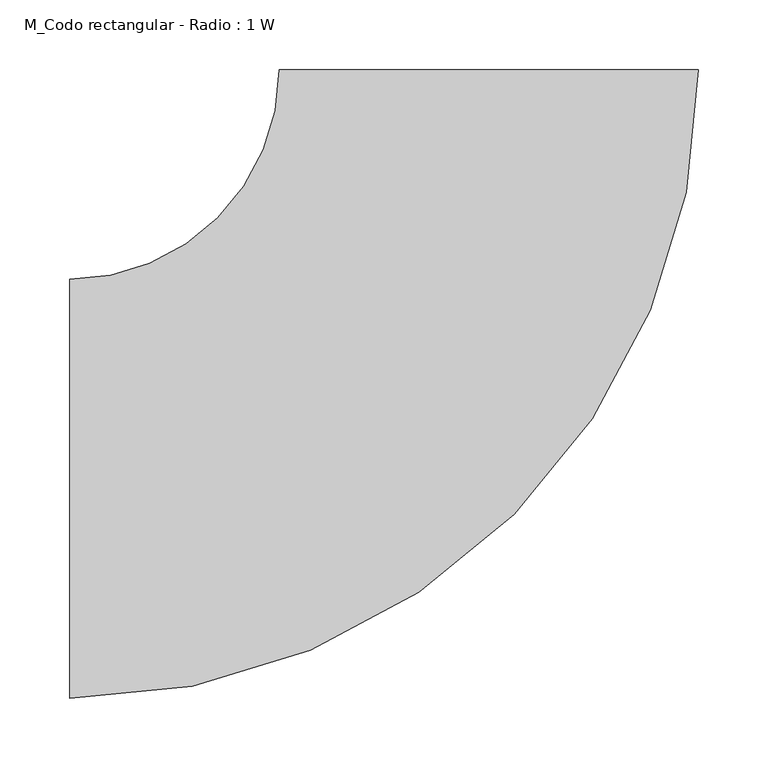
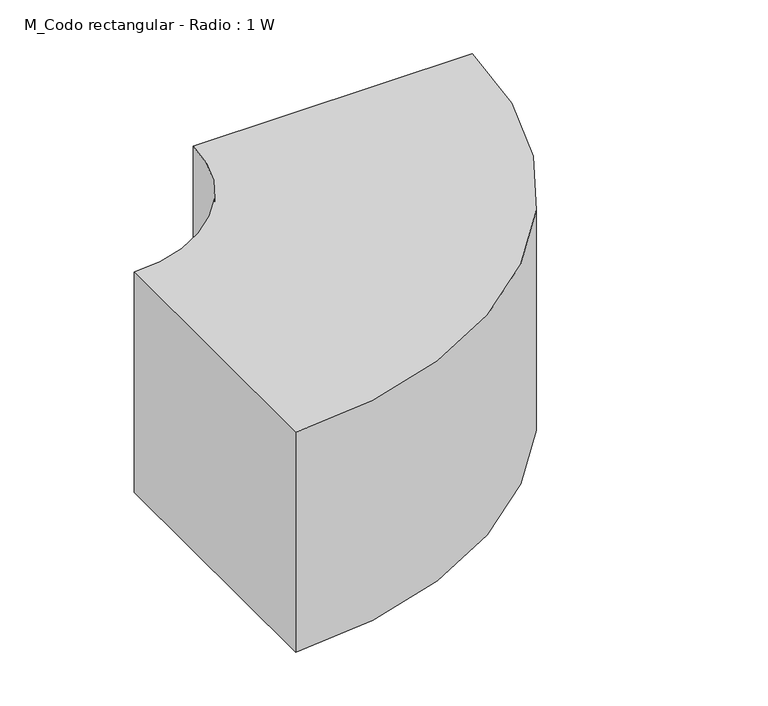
"""IFC4 building model written with IfcOpenShell, lengths in millimetres: duct fitting geometry, M_Codo rectangular - Radio : 1 W."""

import ifcopenshell
import ifcopenshell.guid

model = None  # the IFC model being written
_history = None  # IfcOwnerHistory: only IFC2X3 demands one
_inside = {}  # id of a spatial element -> (the spatial element, [elements in it])
_under = {}  # id of a project, library or spatial element -> (it, [spatial elements below it])
_declared = {}  # id of a project -> (the project, [libraries it declares])
_typed = {}  # id of a type object -> (the type object, [elements of that type])
_made_of = {}  # id of a material, layer set ... -> (it, [elements and type objects made of it])


def new_model(schema):
    """Start an empty IFC model of exactly this schema.

    Asked for "IFC4X3", IfcOpenShell would pick the latest addendum, in which some entities
    have other attributes; the version numbers below select the first issue.
    IFC2X3 requires an IfcOwnerHistory on every rooted entity: one is made here for all.
    """
    global model, _history
    if schema == "IFC4X3":
        model = ifcopenshell.file(schema_version=(4, 3, 0, 0))
    else:
        model = ifcopenshell.file(schema=schema)
    _inside.clear()
    _under.clear()
    _declared.clear()
    _typed.clear()
    _made_of.clear()
    _history = None
    if model.schema == "IFC2X3":
        org = make("IfcOrganization", Name="unknown")
        user = make(
            "IfcPersonAndOrganization",
            ThePerson=make("IfcPerson", FamilyName="unknown"),
            TheOrganization=org,
        )
        app = make(
            "IfcApplication",
            ApplicationDeveloper=org,
            Version="unknown",
            ApplicationFullName="unknown",
            ApplicationIdentifier="unknown",
        )
        _history = make(
            "IfcOwnerHistory",
            OwningUser=user,
            OwningApplication=app,
            ChangeAction="ADDED",
            CreationDate=0,
        )
    return model


def make(cls, **values):
    """One entity of the class cls with the attributes given. An attribute that is None is left unset."""
    return model.create_entity(
        cls, **{name: value for name, value in values.items() if value is not None}
    )


def rooted(cls, **values):
    """An entity with a GlobalId (a new one), such as an element, a storey or a relation."""
    return make(cls, GlobalId=ifcopenshell.guid.new(), OwnerHistory=_history, **values)


def si_unit(unit_type, name, prefix=None):
    """IfcSIUnit, for example si_unit("LENGTHUNIT", "METRE", prefix="MILLI")."""
    return make("IfcSIUnit", UnitType=unit_type, Prefix=prefix, Name=name)


def assignment(units):
    """IfcUnitAssignment: the units of a project."""
    return None if units is None else make("IfcUnitAssignment", Units=units)


def point(xyz):
    """IfcCartesianPoint."""
    return None if xyz is None else make("IfcCartesianPoint", Coordinates=xyz)


def direction(xyz):
    """IfcDirection."""
    return None if xyz is None else make("IfcDirection", DirectionRatios=xyz)


def frame(location, z_axis=None, x_axis=None):
    """IfcAxis2Placement3D, a coordinate frame: its origin and axes. An axis left out is left unset."""
    return make(
        "IfcAxis2Placement3D",
        Location=point(location),
        Axis=direction(z_axis),
        RefDirection=direction(x_axis),
    )


def frame_2d(location, x_axis=None):
    """IfcAxis2Placement2D, a coordinate frame in the plane: its origin and x axis."""
    return make(
        "IfcAxis2Placement2D", Location=point(location), RefDirection=direction(x_axis)
    )


def origin():
    """The frame at (0, 0, 0) with its axes left unset."""
    return frame((0.0, 0.0, 0.0))


def place(relative_to, where):
    """IfcLocalPlacement: puts the frame where relative to a parent placement (None: the world)."""
    return make(
        "IfcLocalPlacement", PlacementRelTo=relative_to, RelativePlacement=where
    )


def context(
    kind, dimensions, precision=None, world=None, true_north=None, identifier=None
):
    """IfcGeometricRepresentationContext, for example the 3D "Model" context."""
    return make(
        "IfcGeometricRepresentationContext",
        ContextIdentifier=identifier,
        ContextType=kind,
        CoordinateSpaceDimension=dimensions,
        Precision=precision,
        WorldCoordinateSystem=world,
        TrueNorth=true_north,
    )


def project(units=None, contexts=None):
    """IfcProject with its units and contexts."""
    return rooted(
        "IfcProject",
        Name="project",
        RepresentationContexts=contexts,
        UnitsInContext=assignment(units),
    )


def spatial(cls, under=None, at=None, **own):
    """A site, building, storey or space (cls), placed at a placement, below another one or the project."""
    s = rooted(cls, ObjectPlacement=at, **own)
    if under is not None:
        _under.setdefault(under.id(), (under, []))[1].append(s)
    return s


def polyline(points):
    """IfcPolyline through the points."""
    return make("IfcPolyline", Points=[point(p) for p in points])


def circle_curve(where, radius):
    """IfcCircle in the frame where."""
    return make("IfcCircle", Position=where, Radius=radius)


def trimmed(basis, trim1, trim2, sense, master):
    """IfcTrimmedCurve: the piece of a basis curve between two trims."""
    return make(
        "IfcTrimmedCurve",
        BasisCurve=basis,
        Trim1=trim1,
        Trim2=trim2,
        SenseAgreement=sense,
        MasterRepresentation=master,
    )


def segment(curve, same_sense, transition):
    """IfcCompositeCurveSegment."""
    return make(
        "IfcCompositeCurveSegment",
        Transition=transition,
        SameSense=same_sense,
        ParentCurve=curve,
    )


def composite_curve(segments, self_intersect=None):
    """IfcCompositeCurve: segments joined end to end."""
    return make("IfcCompositeCurve", Segments=segments, SelfIntersect=self_intersect)


def outline(outer, holes=None, kind="AREA"):
    """IfcArbitraryClosedProfileDef: a profile drawn as a closed curve; with holes, ...WithVoids."""
    if holes is None:
        return make("IfcArbitraryClosedProfileDef", ProfileType=kind, OuterCurve=outer)
    return make(
        "IfcArbitraryProfileDefWithVoids",
        ProfileType=kind,
        OuterCurve=outer,
        InnerCurves=holes,
    )


def extrude(swept, where, along, depth):
    """IfcExtrudedAreaSolid: the profile swept, set in the frame where, extruded along a direction by depth."""
    return make(
        "IfcExtrudedAreaSolid",
        SweptArea=swept,
        Position=where,
        ExtrudedDirection=direction(along),
        Depth=depth,
    )


def shape(context_of_items, identifier, shape_type, items):
    """IfcShapeRepresentation: the items that make up one representation, for example the "Body"."""
    return make(
        "IfcShapeRepresentation",
        ContextOfItems=context_of_items,
        RepresentationIdentifier=identifier,
        RepresentationType=shape_type,
        Items=items,
    )


def source(mapping_origin, context_of_items, identifier, shape_type, items):
    """IfcRepresentationMap: a shape defined once, which mapped items show again and again."""
    return make(
        "IfcRepresentationMap",
        MappingOrigin=mapping_origin,
        MappedRepresentation=shape(context_of_items, identifier, shape_type, items),
    )


def transform(
    local_origin,
    x_axis=None,
    y_axis=None,
    z_axis=None,
    scale=None,
    scale2=None,
    scale3=None,
    uniform=True,
):
    """IfcCartesianTransformationOperator3D, or its non-uniform kind. x_axis, y_axis, z_axis: its Axis1, 2, 3."""
    if uniform:
        return make(
            "IfcCartesianTransformationOperator3D",
            Axis1=direction(x_axis),
            Axis2=direction(y_axis),
            LocalOrigin=point(local_origin),
            Scale=scale,
            Axis3=direction(z_axis),
        )
    return make(
        "IfcCartesianTransformationOperator3DnonUniform",
        Axis1=direction(x_axis),
        Axis2=direction(y_axis),
        LocalOrigin=point(local_origin),
        Scale=scale,
        Axis3=direction(z_axis),
        Scale2=scale2,
        Scale3=scale3,
    )


def mapped(mapping_source, mapping_target):
    """IfcMappedItem: shows the shape of a source again, moved by a transform."""
    return make(
        "IfcMappedItem", MappingSource=mapping_source, MappingTarget=mapping_target
    )


def made_of(thing, what):
    """Note that an element or type object is made of a material, layer set ...; save() writes the relation."""
    if what is not None:
        _made_of.setdefault(what.id(), (what, []))[1].append(thing)
    return thing


def element(
    cls,
    number,
    at=None,
    inside=None,
    cuts=None,
    type_object=None,
    material=None,
    context=None,
    identifier="Body",
    shape_type=None,
    held_by="IfcProductDefinitionShape",
    body=None,
    shapes=None,
    **own,
):
    """One element of the class cls, such as IfcWall. Its Tag is "e" and its number.

    at: its placement. inside: the storey or other place that contains it. cuts: it is an
    opening in that element (IfcRelVoidsElement). A single representation is given by context,
    identifier, shape_type and body (its items); several are given by shapes. held_by: the class
    of the entity that holds the representations. save() writes the other relations.
    """
    e = rooted(cls, Tag="e%d" % number, ObjectPlacement=at, **own)
    if body is not None:
        shapes = [shape(context, identifier, shape_type, body)]
    if shapes is not None:
        e.Representation = make(held_by, Representations=shapes)
    if inside is not None:
        _inside.setdefault(inside.id(), (inside, []))[1].append(e)
    if cuts is not None:
        rooted(
            "IfcRelVoidsElement", RelatingBuildingElement=cuts, RelatedOpeningElement=e
        )
    if type_object is not None:
        _typed.setdefault(type_object.id(), (type_object, []))[1].append(e)
    return made_of(e, material)


def aggregate(whole, parts):
    """IfcRelAggregates: a whole, such as a stair, and the parts it consists of."""
    return rooted("IfcRelAggregates", RelatingObject=whole, RelatedObjects=parts)


def save(model, path):
    """Write the relations noted so far, then the file.

    IfcRelAggregates (storeys below a building ...), IfcRelContainedInSpatialStructure (elements
    in a storey), IfcRelDefinesByType, IfcRelAssociatesMaterial and IfcRelDeclares: one each for
    every whole, place, type object, material and project.
    """
    for whole, parts in _under.values():
        aggregate(whole, parts)
    for where, things in _inside.values():
        rooted(
            "IfcRelContainedInSpatialStructure",
            RelatedElements=things,
            RelatingStructure=where,
        )
    for kind, things in _typed.values():
        rooted("IfcRelDefinesByType", RelatedObjects=things, RelatingType=kind)
    for what, things in _made_of.values():
        rooted("IfcRelAssociatesMaterial", RelatedObjects=things, RelatingMaterial=what)
    for by, libraries in _declared.values():
        rooted("IfcRelDeclares", RelatingContext=by, RelatedDefinitions=libraries)
    model.write(path)


def m_codo_rectangular_radio_1_w_5fcde47c(model_context):
    return source(origin(), model_context, "Body", "SweptSolid", [
        extrude(outline(composite_curve([segment(trimmed(circle_curve(frame_2d((-300.0, 300.0)), 450.0), [point((150.0, 300.0))], [point((-300.0, -150.0))], False, "CARTESIAN"), True, "CONTINUOUS"), segment(polyline([(-300.0, -150.0), (-300.0, 150.0)]), True, "CONTINUOUS"), segment(trimmed(circle_curve(frame_2d((-300.0, 300.0)), 150.0), [point((-300.0, 150.0))], [point((-150.0, 300.0))], True, "CARTESIAN"), True, "CONTINUOUS"), segment(polyline([(-150.0, 300.0), (150.0, 300.0)]), True, "CONTINUOUS")], self_intersect=False)), frame((0.0, 0.0, -125.0), z_axis=(0.0, 0.0, 1.0), x_axis=(1.0, 0.0, 0.0)), (0.0, 0.0, 1.0), 250.0),
    ])


if __name__ == "__main__":
    model = new_model("IFC4")
    model_context = context("Model", 3, world=origin())
    ifc_project = project(units=[si_unit("LENGTHUNIT", "METRE", prefix="MILLI")], contexts=[model_context])
    site = spatial("IfcSite", under=ifc_project)
    building = spatial("IfcBuilding", under=site)
    placement = place(None, origin())
    m_codo_rectangular_radio_1_w_shape = m_codo_rectangular_radio_1_w_5fcde47c(model_context)
    element("IfcDuctFitting", 1, ObjectType="M_Codo rectangular - Radio : 1 W", at=placement, inside=building, context=model_context, shape_type="MappedRepresentation", body=[
        mapped(m_codo_rectangular_radio_1_w_shape, transform((0.0, 0.0, 0.0), x_axis=(1.0, 0.0, 0.0), y_axis=(0.0, 1.0, 0.0), z_axis=(0.0, 0.0, 1.0))),
    ])
    save(model, "model.ifc")
